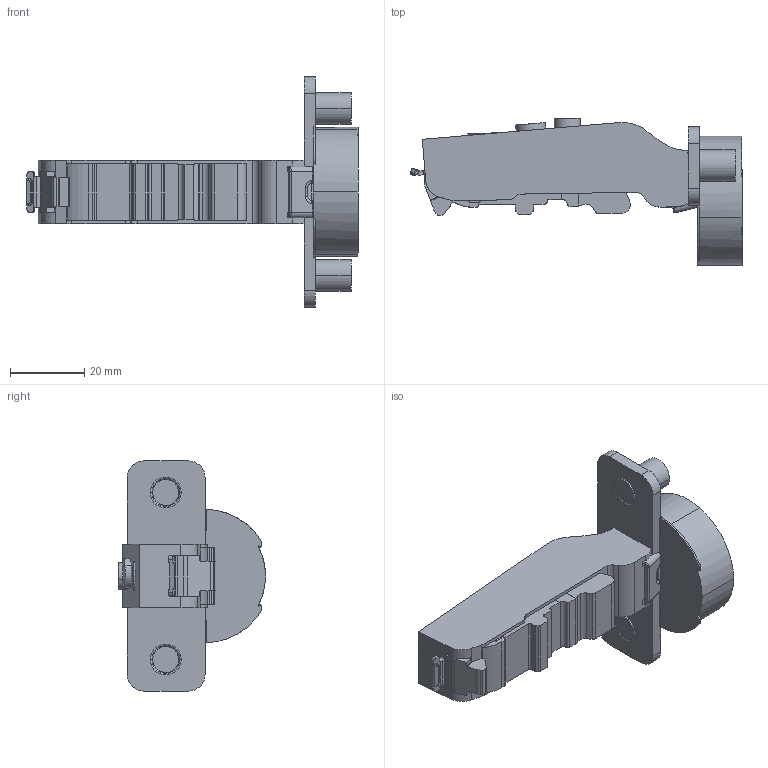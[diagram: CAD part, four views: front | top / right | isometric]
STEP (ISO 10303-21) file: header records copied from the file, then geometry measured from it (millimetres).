
FILE_DESCRIPTION (( 'STEP AP203' ), '1' );
FILE_NAME ('C81A875NFAB DTC 3D CLOSE.STEP', '2024-07-24T08:21:31', ( '微软用户' ), ( '微软中国' ), 'SwSTEP 2.0', 'SolidWorks 2021', '' );
FILE_SCHEMA (( 'CONFIG_CONTROL_DESIGN' ));
Length unit declared in the file: millimetre
Products named in the file (1): C81A875NFAB DTC 3D CLOSE
Bounding box: 89.46 x 39.64 x 62 mm (x, y, z)
Volume: 39972.2 mm3; surface area: 11742.1 mm2
Topology: 1 solids, 2 shells, 367 faces, 1076 edges, 713 vertices
Faces by surface type: plane 177, cylinder 129, bspline 33, torus 24, cone 4
Entity records: 13700 total; most frequent: CARTESIAN_POINT 4025, ORIENTED_EDGE 2152, DIRECTION 1869, EDGE_CURVE 1076, VERTEX_POINT 713, AXIS2_PLACEMENT_3D 628, LINE 613, VECTOR 613
